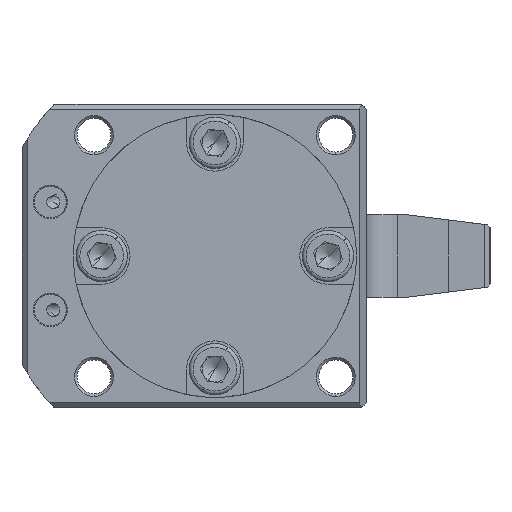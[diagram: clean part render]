
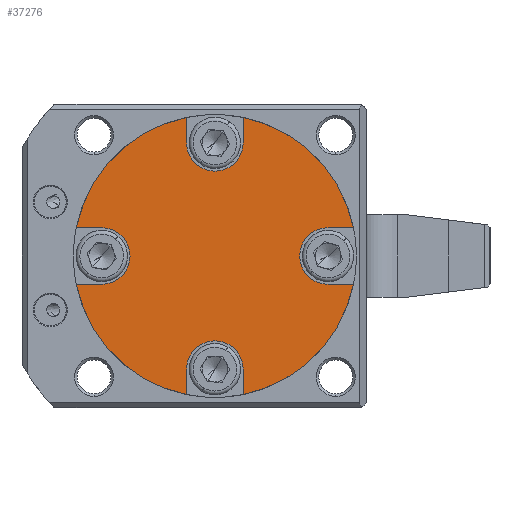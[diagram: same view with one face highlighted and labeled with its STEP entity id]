
A CAD part, front view. The second image highlights one B-rep face of the part: STEP entity #37276.
In plain terms, the highlighted planar face has unit normal (0, -1, 0).
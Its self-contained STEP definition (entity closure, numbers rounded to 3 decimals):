
#107 = DIRECTION ( 'NONE',  ( -1., 0., 0. ) ) ;
#108 = VECTOR ( 'NONE', #107, 1000. ) ;
#109 = CARTESIAN_POINT ( 'NONE',  ( 7769.541, 2340.823, 5.5 ) ) ;
#110 = LINE ( 'NONE', #109, #108 ) ;
#366 = CIRCLE ( 'NONE', #397, 5.5 ) ;
#394 = DIRECTION ( 'NONE',  ( 0., 0., 1. ) ) ;
#395 = DIRECTION ( 'NONE',  ( 0., -1., 0. ) ) ;
#396 = CARTESIAN_POINT ( 'NONE',  ( 7747.541, 2340.823, 22. ) ) ;
#397 = AXIS2_PLACEMENT_3D ( 'NONE', #396, #395, #394 ) ;
#439 = DIRECTION ( 'NONE',  ( 0., 0., 1. ) ) ;
#440 = VECTOR ( 'NONE', #439, 1000. ) ;
#441 = CARTESIAN_POINT ( 'NONE',  ( 7753.041, 2340.823, 22. ) ) ;
#442 = LINE ( 'NONE', #441, #440 ) ;
#474 = VECTOR ( 'NONE', #537, 1000. ) ;
#475 = CARTESIAN_POINT ( 'NONE',  ( 7725.541, 2340.823, 5.5 ) ) ;
#476 = LINE ( 'NONE', #475, #474 ) ;
#478 = AXIS2_PLACEMENT_3D ( 'NONE', #526, #521, #520 ) ;
#484 = CARTESIAN_POINT ( 'NONE',  ( 7725.541, 2340.823, 5.5 ) ) ;
#487 = CARTESIAN_POINT ( 'NONE',  ( 7720.596, 2340.823, 5.5 ) ) ;
#509 = DIRECTION ( 'NONE',  ( 0., 0., -1. ) ) ;
#510 = VECTOR ( 'NONE', #509, 1000. ) ;
#511 = CARTESIAN_POINT ( 'NONE',  ( 7742.041, 2340.823, 22. ) ) ;
#512 = LINE ( 'NONE', #511, #510 ) ;
#520 = DIRECTION ( 'NONE',  ( 0., 0., -1. ) ) ;
#521 = DIRECTION ( 'NONE',  ( 0., -1., 0. ) ) ;
#526 = CARTESIAN_POINT ( 'NONE',  ( 7747.541, 2340.823, 0. ) ) ;
#530 = CARTESIAN_POINT ( 'NONE',  ( 7742.041, 2340.823, 26.944 ) ) ;
#531 = CIRCLE ( 'NONE', #478, 27.5 ) ;
#537 = DIRECTION ( 'NONE',  ( -1., 0., 0. ) ) ;
#655 = DIRECTION ( 'NONE',  ( 0., 0., 1. ) ) ;
#657 = DIRECTION ( 'NONE',  ( 0., -1., 0. ) ) ;
#662 = CIRCLE ( 'NONE', #671, 5.5 ) ;
#669 = CARTESIAN_POINT ( 'NONE',  ( 7725.541, 2340.823, 0. ) ) ;
#671 = AXIS2_PLACEMENT_3D ( 'NONE', #669, #657, #655 ) ;
#12055 = CIRCLE ( 'NONE', #12096, 27.5 ) ;
#12096 = AXIS2_PLACEMENT_3D ( 'NONE', #12119, #12222, #12209 ) ;
#12119 = CARTESIAN_POINT ( 'NONE',  ( 7747.541, 2340.823, 0. ) ) ;
#12148 = CARTESIAN_POINT ( 'NONE',  ( 7753.041, 2340.823, 26.944 ) ) ;
#12151 = DIRECTION ( 'NONE',  ( 0., 0., -1. ) ) ;
#12154 = DIRECTION ( 'NONE',  ( 0., -1., 0. ) ) ;
#12158 = CARTESIAN_POINT ( 'NONE',  ( 7747.541, 2340.823, 0. ) ) ;
#12159 = AXIS2_PLACEMENT_3D ( 'NONE', #12158, #12154, #12151 ) ;
#12209 = DIRECTION ( 'NONE',  ( 0., 0., -1. ) ) ;
#12217 = CIRCLE ( 'NONE', #12159, 27.5 ) ;
#12222 = DIRECTION ( 'NONE',  ( 0., -1., 0. ) ) ;
#12287 = CARTESIAN_POINT ( 'NONE',  ( 7774.485, 2340.823, 5.5 ) ) ;
#12290 = CARTESIAN_POINT ( 'NONE',  ( 7753.041, 2340.823, -26.944 ) ) ;
#12362 = CARTESIAN_POINT ( 'NONE',  ( 7774.485, 2340.823, -5.5 ) ) ;
#15001 = DIRECTION ( 'NONE',  ( 0., 0., 1. ) ) ;
#15004 = DIRECTION ( 'NONE',  ( 0., -1., 0. ) ) ;
#15006 = CARTESIAN_POINT ( 'NONE',  ( 7747.541, 2340.823, 22. ) ) ;
#15026 = CARTESIAN_POINT ( 'NONE',  ( 7753.041, 2340.823, 22. ) ) ;
#15028 = CIRCLE ( 'NONE', #15053, 5.5 ) ;
#15053 = AXIS2_PLACEMENT_3D ( 'NONE', #15006, #15004, #15001 ) ;
#15212 = CARTESIAN_POINT ( 'NONE',  ( 7747.541, 2340.823, 16.5 ) ) ;
#32308 = CARTESIAN_POINT ( 'NONE',  ( 7769.541, 2340.823, -5.5 ) ) ;
#32972 = VECTOR ( 'NONE', #33208, 1000. ) ;
#33171 = DIRECTION ( 'NONE',  ( 0., 0., -1. ) ) ;
#33172 = DIRECTION ( 'NONE',  ( 0., -1., 0. ) ) ;
#33173 = CARTESIAN_POINT ( 'NONE',  ( 7747.541, 2340.823, 0. ) ) ;
#33174 = AXIS2_PLACEMENT_3D ( 'NONE', #33173, #33172, #33171 ) ;
#33185 = CIRCLE ( 'NONE', #33174, 27.5 ) ;
#33187 = DIRECTION ( 'NONE',  ( 1., 0., 0. ) ) ;
#33188 = VECTOR ( 'NONE', #33187, 1000. ) ;
#33201 = CARTESIAN_POINT ( 'NONE',  ( 7725.541, 2340.823, -5.5 ) ) ;
#33202 = LINE ( 'NONE', #33201, #33188 ) ;
#33208 = DIRECTION ( 'NONE',  ( 1., 0., 0. ) ) ;
#33311 = CARTESIAN_POINT ( 'NONE',  ( 7753.041, 2340.823, -22. ) ) ;
#33316 = CARTESIAN_POINT ( 'NONE',  ( 7742.041, 2340.823, -26.944 ) ) ;
#33317 = CARTESIAN_POINT ( 'NONE',  ( 7742.041, 2340.823, -22. ) ) ;
#33318 = LINE ( 'NONE', #33317, #33377 ) ;
#33319 = CIRCLE ( 'NONE', #33360, 5.5 ) ;
#33320 = DIRECTION ( 'NONE',  ( 0., 0., -1. ) ) ;
#33321 = DIRECTION ( 'NONE',  ( 0., -1., 0. ) ) ;
#33322 = CARTESIAN_POINT ( 'NONE',  ( 7747.541, 2340.823, 0. ) ) ;
#33323 = AXIS2_PLACEMENT_3D ( 'NONE', #33322, #33321, #33320 ) ;
#33328 = FACE_OUTER_BOUND ( 'NONE', #37222, .T. ) ;
#33329 = CARTESIAN_POINT ( 'NONE',  ( 7725.541, 2340.823, -5.5 ) ) ;
#33330 = CARTESIAN_POINT ( 'NONE',  ( 7720.596, 2340.823, -5.5 ) ) ;
#33331 = CARTESIAN_POINT ( 'NONE',  ( 7742.041, 2340.823, -22. ) ) ;
#33336 = PLANE ( 'NONE',  #33323 ) ;
#33359 = DIRECTION ( 'NONE',  ( 0., 0., -1. ) ) ;
#33360 = AXIS2_PLACEMENT_3D ( 'NONE', #33370, #33367, #33359 ) ;
#33367 = DIRECTION ( 'NONE',  ( 0., -1., 0. ) ) ;
#33370 = CARTESIAN_POINT ( 'NONE',  ( 7747.541, 2340.823, -22. ) ) ;
#33376 = DIRECTION ( 'NONE',  ( 0., 0., -1. ) ) ;
#33377 = VECTOR ( 'NONE', #33376, 1000. ) ;
#33533 = CARTESIAN_POINT ( 'NONE',  ( 7769.541, 2340.823, 0. ) ) ;
#33548 = CARTESIAN_POINT ( 'NONE',  ( 7742.041, 2340.823, 22. ) ) ;
#33549 = DIRECTION ( 'NONE',  ( 0., 0., -1. ) ) ;
#33550 = DIRECTION ( 'NONE',  ( 0., -1., 0. ) ) ;
#33552 = CARTESIAN_POINT ( 'NONE',  ( 7769.541, 2340.823, 5.5 ) ) ;
#33564 = AXIS2_PLACEMENT_3D ( 'NONE', #33533, #33550, #33549 ) ;
#33566 = CIRCLE ( 'NONE', #33564, 5.5 ) ;
#33576 = VECTOR ( 'NONE', #33591, 1000. ) ;
#33579 = LINE ( 'NONE', #33592, #33576 ) ;
#33591 = DIRECTION ( 'NONE',  ( 0., 0., 1. ) ) ;
#33592 = CARTESIAN_POINT ( 'NONE',  ( 7753.041, 2340.823, -22. ) ) ;
#33644 = CARTESIAN_POINT ( 'NONE',  ( 7769.541, 2340.823, -5.5 ) ) ;
#33645 = LINE ( 'NONE', #33644, #32972 ) ;
#34086 = EDGE_CURVE ( 'NONE', #34113, #34111, #12055, .T. ) ;
#34095 = EDGE_CURVE ( 'NONE', #34114, #34108, #12217, .T. ) ;
#34108 = VERTEX_POINT ( 'NONE', #12148 ) ;
#34111 = VERTEX_POINT ( 'NONE', #12362 ) ;
#34113 = VERTEX_POINT ( 'NONE', #12290 ) ;
#34114 = VERTEX_POINT ( 'NONE', #12287 ) ;
#34493 = VERTEX_POINT ( 'NONE', #15026 ) ;
#34494 = EDGE_CURVE ( 'NONE', #34519, #34493, #15028, .T. ) ;
#34519 = VERTEX_POINT ( 'NONE', #15212 ) ;
#36344 = ORIENTED_EDGE ( 'NONE', *, *, #37408, .F. ) ;
#37188 = EDGE_CURVE ( 'NONE', #37273, #37274, #33202, .T. ) ;
#37194 = EDGE_CURVE ( 'NONE', #37273, #37282, #33185, .T. ) ;
#37222 = EDGE_LOOP ( 'NONE', ( #37258, #37283, #37277, #37264, #36344, #37338, #37362, #37399, #37302, #37384, #37261, #37725, #37597, #37726, #37697, #37763, #37762 ) ) ;
#37258 = ORIENTED_EDGE ( 'NONE', *, *, #37188, .F. ) ;
#37261 = ORIENTED_EDGE ( 'NONE', *, *, #37639, .F. ) ;
#37264 = ORIENTED_EDGE ( 'NONE', *, *, #37290, .F. ) ;
#37273 = VERTEX_POINT ( 'NONE', #33330 ) ;
#37274 = VERTEX_POINT ( 'NONE', #33329 ) ;
#37276 = ADVANCED_FACE ( 'NONE', ( #33328 ), #33336, .T. ) ;
#37277 = ORIENTED_EDGE ( 'NONE', *, *, #37284, .F. ) ;
#37278 = VERTEX_POINT ( 'NONE', #33331 ) ;
#37282 = VERTEX_POINT ( 'NONE', #33316 ) ;
#37283 = ORIENTED_EDGE ( 'NONE', *, *, #37194, .T. ) ;
#37284 = EDGE_CURVE ( 'NONE', #37278, #37282, #33318, .T. ) ;
#37288 = VERTEX_POINT ( 'NONE', #33311 ) ;
#37290 = EDGE_CURVE ( 'NONE', #37288, #37278, #33319, .T. ) ;
#37302 = ORIENTED_EDGE ( 'NONE', *, *, #37448, .F. ) ;
#37338 = ORIENTED_EDGE ( 'NONE', *, *, #34086, .T. ) ;
#37352 = VERTEX_POINT ( 'NONE', #32308 ) ;
#37362 = ORIENTED_EDGE ( 'NONE', *, *, #37446, .F. ) ;
#37384 = ORIENTED_EDGE ( 'NONE', *, *, #34095, .T. ) ;
#37385 = VERTEX_POINT ( 'NONE', #33548 ) ;
#37399 = ORIENTED_EDGE ( 'NONE', *, *, #37400, .F. ) ;
#37400 = EDGE_CURVE ( 'NONE', #37401, #37352, #33566, .T. ) ;
#37401 = VERTEX_POINT ( 'NONE', #33552 ) ;
#37408 = EDGE_CURVE ( 'NONE', #34113, #37288, #33579, .T. ) ;
#37446 = EDGE_CURVE ( 'NONE', #37352, #34111, #33645, .T. ) ;
#37448 = EDGE_CURVE ( 'NONE', #34114, #37401, #110, .T. ) ;
#37597 = ORIENTED_EDGE ( 'NONE', *, *, #37624, .F. ) ;
#37624 = EDGE_CURVE ( 'NONE', #37385, #34519, #366, .T. ) ;
#37639 = EDGE_CURVE ( 'NONE', #34493, #34108, #442, .T. ) ;
#37690 = EDGE_CURVE ( 'NONE', #37698, #37699, #476, .T. ) ;
#37695 = EDGE_CURVE ( 'NONE', #37700, #37699, #531, .T. ) ;
#37697 = ORIENTED_EDGE ( 'NONE', *, *, #37695, .T. ) ;
#37698 = VERTEX_POINT ( 'NONE', #484 ) ;
#37699 = VERTEX_POINT ( 'NONE', #487 ) ;
#37700 = VERTEX_POINT ( 'NONE', #530 ) ;
#37702 = EDGE_CURVE ( 'NONE', #37700, #37385, #512, .T. ) ;
#37725 = ORIENTED_EDGE ( 'NONE', *, *, #34494, .F. ) ;
#37726 = ORIENTED_EDGE ( 'NONE', *, *, #37702, .F. ) ;
#37762 = ORIENTED_EDGE ( 'NONE', *, *, #37764, .F. ) ;
#37763 = ORIENTED_EDGE ( 'NONE', *, *, #37690, .F. ) ;
#37764 = EDGE_CURVE ( 'NONE', #37274, #37698, #662, .T. ) ;
